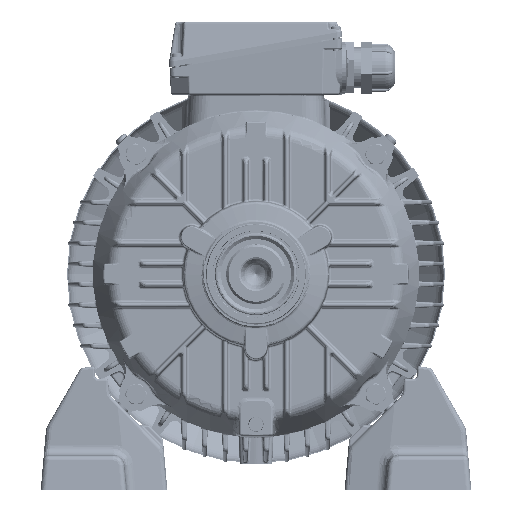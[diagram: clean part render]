
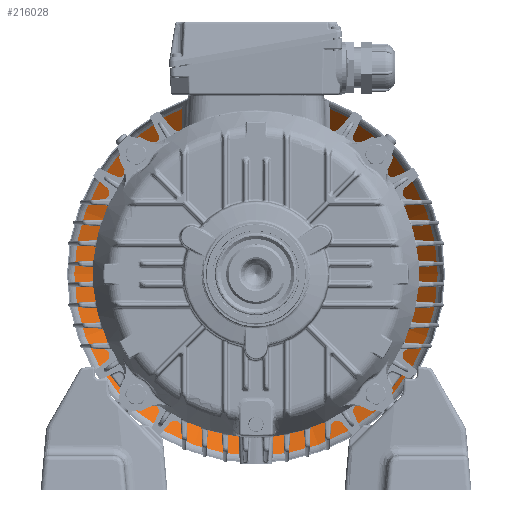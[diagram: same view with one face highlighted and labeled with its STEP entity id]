
A CAD part, front view. The second image highlights one B-rep face of the part: STEP entity #216028.
In plain terms, the highlighted conical face has half-angle 45 degrees and reference radius 168.142 mm.
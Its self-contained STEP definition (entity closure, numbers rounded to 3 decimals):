
#30774=CONICAL_SURFACE('',#233486,168.142,0.785);
#73321=ORIENTED_EDGE('',*,*,#109906,.F.);
#73322=ORIENTED_EDGE('',*,*,#109905,.T.);
#109905=EDGE_CURVE('',#129756,#129756,#138761,.T.);
#109906=EDGE_CURVE('',#129757,#129757,#138762,.T.);
#129756=VERTEX_POINT('',#444476);
#129757=VERTEX_POINT('',#444479);
#138761=CIRCLE('',#233485,168.142);
#138762=CIRCLE('',#233487,139.515);
#147186=EDGE_LOOP('',(#73321));
#147187=EDGE_LOOP('',(#73322));
#159008=FACE_BOUND('',#147186,.T.);
#159009=FACE_BOUND('',#147187,.T.);
#216028=ADVANCED_FACE('',(#159008,#159009),#30774,.F.);
#233485=AXIS2_PLACEMENT_3D('',#444475,#272723,#272724);
#233486=AXIS2_PLACEMENT_3D('',#444477,#272725,#272726);
#233487=AXIS2_PLACEMENT_3D('',#444478,#272727,#272728);
#272723=DIRECTION('',(0.,-1.,0.));
#272724=DIRECTION('',(0.,0.,-1.));
#272725=DIRECTION('',(0.,-1.,0.));
#272726=DIRECTION('',(0.,0.,-1.));
#272727=DIRECTION('',(0.,-1.,0.));
#272728=DIRECTION('',(0.,0.,-1.));
#444475=CARTESIAN_POINT('',(0.,168.444,0.));
#444476=CARTESIAN_POINT('',(0.,168.444,-168.142));
#444477=CARTESIAN_POINT('',(0.,168.444,0.));
#444478=CARTESIAN_POINT('',(0.,197.071,0.));
#444479=CARTESIAN_POINT('',(0.,197.071,-139.515));
